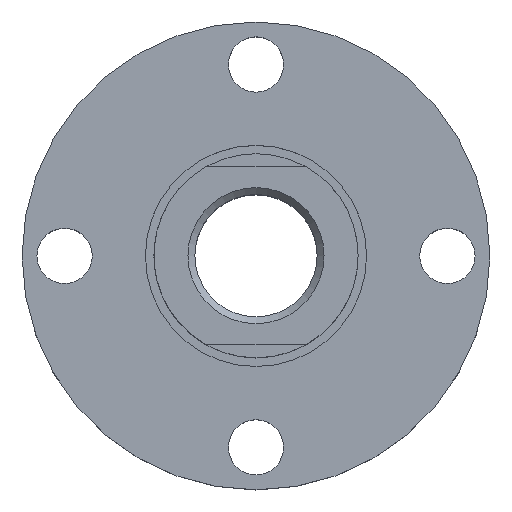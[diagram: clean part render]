
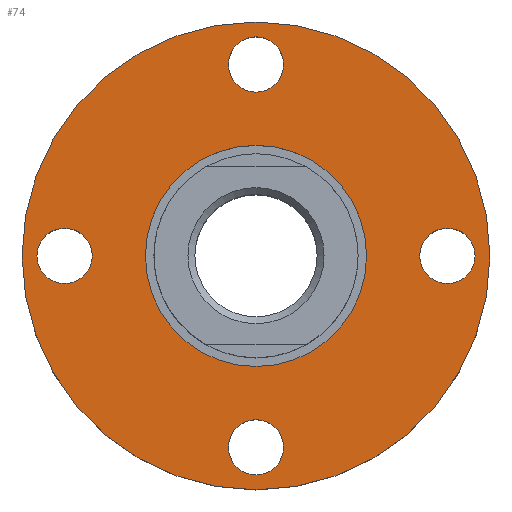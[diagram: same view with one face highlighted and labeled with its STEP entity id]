
A CAD part, top view. The second image highlights one B-rep face of the part: STEP entity #74.
In plain terms, the highlighted planar face has unit normal (0, 0, 1).
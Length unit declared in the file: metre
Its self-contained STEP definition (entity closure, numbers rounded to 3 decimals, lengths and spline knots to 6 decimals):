
#74 = ADVANCED_FACE( '', ( #160, #161, #162, #163, #164, #165 ), #166, .F. );
#160 = FACE_BOUND( '', #243, .T. );
#161 = FACE_BOUND( '', #244, .T. );
#162 = FACE_BOUND( '', #245, .T. );
#163 = FACE_BOUND( '', #246, .T. );
#164 = FACE_OUTER_BOUND( '', #247, .T. );
#165 = FACE_BOUND( '', #248, .T. );
#166 = PLANE( '', #249 );
#243 = EDGE_LOOP( '', ( #369 ) );
#244 = EDGE_LOOP( '', ( #370 ) );
#245 = EDGE_LOOP( '', ( #371 ) );
#246 = EDGE_LOOP( '', ( #372 ) );
#247 = EDGE_LOOP( '', ( #373 ) );
#248 = EDGE_LOOP( '', ( #374 ) );
#249 = AXIS2_PLACEMENT_3D( '', #375, #376, #377 );
#369 = ORIENTED_EDGE( '', *, *, #413, .F. );
#370 = ORIENTED_EDGE( '', *, *, #394, .F. );
#371 = ORIENTED_EDGE( '', *, *, #410, .F. );
#372 = ORIENTED_EDGE( '', *, *, #397, .F. );
#373 = ORIENTED_EDGE( '', *, *, #406, .T. );
#374 = ORIENTED_EDGE( '', *, *, #418, .T. );
#375 = CARTESIAN_POINT( '', ( 0., 0., 0.009 ) );
#376 = DIRECTION( '', ( 0., 0., -1. ) );
#377 = DIRECTION( '', ( 1., 0., 0. ) );
#394 = EDGE_CURVE( '', #448, #448, #449, .T. );
#397 = EDGE_CURVE( '', #453, #453, #454, .T. );
#406 = EDGE_CURVE( '', #467, #467, #468, .T. );
#410 = EDGE_CURVE( '', #474, #474, #475, .T. );
#413 = EDGE_CURVE( '', #479, #479, #480, .T. );
#418 = EDGE_CURVE( '', #487, #487, #488, .F. );
#448 = VERTEX_POINT( '', #524 );
#449 = CIRCLE( '', #525, 0.00325 );
#453 = VERTEX_POINT( '', #529 );
#454 = CIRCLE( '', #530, 0.00325 );
#467 = VERTEX_POINT( '', #544 );
#468 = CIRCLE( '', #545, 0.0275 );
#474 = VERTEX_POINT( '', #551 );
#475 = CIRCLE( '', #552, 0.00325 );
#479 = VERTEX_POINT( '', #556 );
#480 = CIRCLE( '', #557, 0.00325 );
#487 = VERTEX_POINT( '', #564 );
#488 = CIRCLE( '', #565, 0.013 );
#524 = CARTESIAN_POINT( '', ( -0.02575, 0., 0.009 ) );
#525 = AXIS2_PLACEMENT_3D( '', #596, #597, #598 );
#529 = CARTESIAN_POINT( '', ( 0.02575, 0., 0.009 ) );
#530 = AXIS2_PLACEMENT_3D( '', #602, #603, #604 );
#544 = CARTESIAN_POINT( '', ( 0.0275, 0., 0.009 ) );
#545 = AXIS2_PLACEMENT_3D( '', #618, #619, #620 );
#551 = CARTESIAN_POINT( '', ( 0., 0.02575, 0.009 ) );
#552 = AXIS2_PLACEMENT_3D( '', #627, #628, #629 );
#556 = CARTESIAN_POINT( '', ( 0., -0.02575, 0.009 ) );
#557 = AXIS2_PLACEMENT_3D( '', #633, #634, #635 );
#564 = CARTESIAN_POINT( '', ( 0.013, 0., 0.009 ) );
#565 = AXIS2_PLACEMENT_3D( '', #642, #643, #644 );
#596 = CARTESIAN_POINT( '', ( -0.0225, 0., 0.009 ) );
#597 = DIRECTION( '', ( 0., 0., 1. ) );
#598 = DIRECTION( '', ( -1., 0., 0. ) );
#602 = CARTESIAN_POINT( '', ( 0.0225, 0., 0.009 ) );
#603 = DIRECTION( '', ( 0., 0., 1. ) );
#604 = DIRECTION( '', ( 1., 0., 0. ) );
#618 = CARTESIAN_POINT( '', ( 0., 0., 0.009 ) );
#619 = DIRECTION( '', ( 0., 0., 1. ) );
#620 = DIRECTION( '', ( 1., 0., 0. ) );
#627 = CARTESIAN_POINT( '', ( 0., 0.0225, 0.009 ) );
#628 = DIRECTION( '', ( 0., 0., 1. ) );
#629 = DIRECTION( '', ( 0., 1., 0. ) );
#633 = CARTESIAN_POINT( '', ( 0., -0.0225, 0.009 ) );
#634 = DIRECTION( '', ( 0., 0., 1. ) );
#635 = DIRECTION( '', ( 0., -1., 0. ) );
#642 = CARTESIAN_POINT( '', ( 0., 0., 0.009 ) );
#643 = DIRECTION( '', ( 0., 0., 1. ) );
#644 = DIRECTION( '', ( 1., 0., 0. ) );
